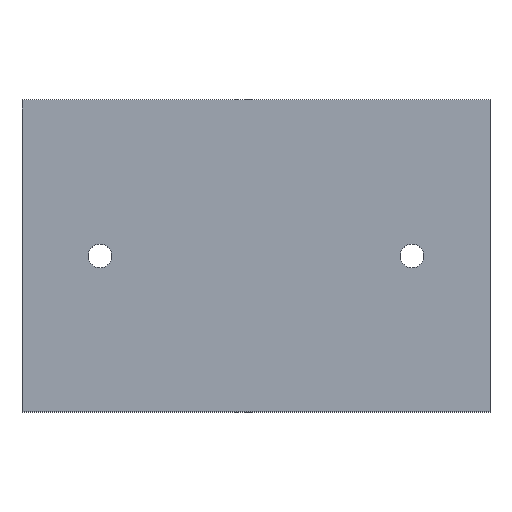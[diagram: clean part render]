
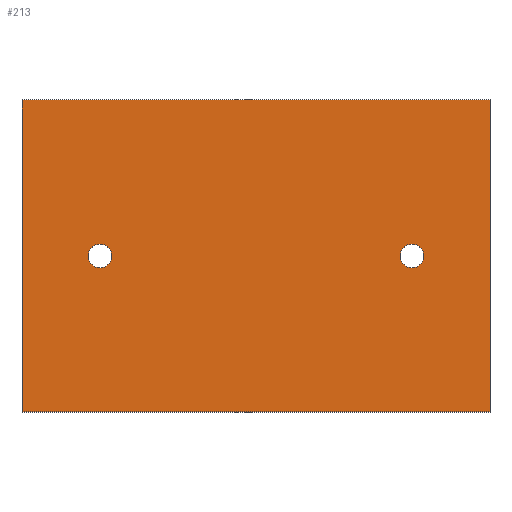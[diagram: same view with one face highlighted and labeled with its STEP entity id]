
A CAD part, top view. The second image highlights one B-rep face of the part: STEP entity #213.
In plain terms, the highlighted planar face has unit normal (0, 0, 1).
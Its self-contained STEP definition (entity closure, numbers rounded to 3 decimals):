
#24 = VERTEX_POINT('',#25);
#25 = CARTESIAN_POINT('',(-60.,-40.,24.));
#32 = PLANE('',#33);
#33 = AXIS2_PLACEMENT_3D('',#34,#35,#36);
#34 = CARTESIAN_POINT('',(-60.,-40.,16.));
#35 = DIRECTION('',(1.,0.,0.));
#36 = DIRECTION('',(0.,0.,1.));
#44 = PLANE('',#45);
#45 = AXIS2_PLACEMENT_3D('',#46,#47,#48);
#46 = CARTESIAN_POINT('',(-60.,-40.,16.));
#47 = DIRECTION('',(0.,1.,0.));
#48 = DIRECTION('',(0.,0.,1.));
#85 = VERTEX_POINT('',#86);
#86 = CARTESIAN_POINT('',(-60.,40.,24.));
#100 = PLANE('',#101);
#101 = AXIS2_PLACEMENT_3D('',#102,#103,#104);
#102 = CARTESIAN_POINT('',(-60.,40.,16.));
#103 = DIRECTION('',(0.,1.,0.));
#104 = DIRECTION('',(0.,0.,1.));
#112 = EDGE_CURVE('',#24,#85,#113,.T.);
#113 = SURFACE_CURVE('',#114,(#118,#125),.PCURVE_S1.);
#114 = LINE('',#115,#116);
#115 = CARTESIAN_POINT('',(-60.,-40.,24.));
#116 = VECTOR('',#117,1.);
#117 = DIRECTION('',(0.,1.,0.));
#118 = PCURVE('',#32,#119);
#119 = DEFINITIONAL_REPRESENTATION('',(#120),#124);
#120 = LINE('',#121,#122);
#121 = CARTESIAN_POINT('',(8.,0.));
#122 = VECTOR('',#123,1.);
#123 = DIRECTION('',(0.,-1.));
#124 = ( GEOMETRIC_REPRESENTATION_CONTEXT(2) 
PARAMETRIC_REPRESENTATION_CONTEXT() REPRESENTATION_CONTEXT('2D SPACE',''
  ) );
#125 = PCURVE('',#126,#131);
#126 = PLANE('',#127);
#127 = AXIS2_PLACEMENT_3D('',#128,#129,#130);
#128 = CARTESIAN_POINT('',(-60.,-40.,24.));
#129 = DIRECTION('',(0.,0.,1.));
#130 = DIRECTION('',(1.,0.,0.));
#131 = DEFINITIONAL_REPRESENTATION('',(#132),#136);
#132 = LINE('',#133,#134);
#133 = CARTESIAN_POINT('',(0.,0.));
#134 = VECTOR('',#135,1.);
#135 = DIRECTION('',(0.,1.));
#136 = ( GEOMETRIC_REPRESENTATION_CONTEXT(2) 
PARAMETRIC_REPRESENTATION_CONTEXT() REPRESENTATION_CONTEXT('2D SPACE',''
  ) );
#165 = EDGE_CURVE('',#24,#166,#168,.T.);
#166 = VERTEX_POINT('',#167);
#167 = CARTESIAN_POINT('',(60.,-40.,24.));
#168 = SURFACE_CURVE('',#169,(#173,#180),.PCURVE_S1.);
#169 = LINE('',#170,#171);
#170 = CARTESIAN_POINT('',(-60.,-40.,24.));
#171 = VECTOR('',#172,1.);
#172 = DIRECTION('',(1.,0.,0.));
#173 = PCURVE('',#44,#174);
#174 = DEFINITIONAL_REPRESENTATION('',(#175),#179);
#175 = LINE('',#176,#177);
#176 = CARTESIAN_POINT('',(8.,0.));
#177 = VECTOR('',#178,1.);
#178 = DIRECTION('',(0.,1.));
#179 = ( GEOMETRIC_REPRESENTATION_CONTEXT(2) 
PARAMETRIC_REPRESENTATION_CONTEXT() REPRESENTATION_CONTEXT('2D SPACE',''
  ) );
#180 = PCURVE('',#126,#181);
#181 = DEFINITIONAL_REPRESENTATION('',(#182),#186);
#182 = LINE('',#183,#184);
#183 = CARTESIAN_POINT('',(0.,0.));
#184 = VECTOR('',#185,1.);
#185 = DIRECTION('',(1.,0.));
#186 = ( GEOMETRIC_REPRESENTATION_CONTEXT(2) 
PARAMETRIC_REPRESENTATION_CONTEXT() REPRESENTATION_CONTEXT('2D SPACE',''
  ) );
#202 = PLANE('',#203);
#203 = AXIS2_PLACEMENT_3D('',#204,#205,#206);
#204 = CARTESIAN_POINT('',(60.,-40.,16.));
#205 = DIRECTION('',(1.,0.,0.));
#206 = DIRECTION('',(0.,0.,1.));
#213 = ADVANCED_FACE('',(#214,#262,#293),#126,.T.);
#214 = FACE_BOUND('',#215,.T.);
#215 = EDGE_LOOP('',(#216,#217,#218,#241));
#216 = ORIENTED_EDGE('',*,*,#112,.F.);
#217 = ORIENTED_EDGE('',*,*,#165,.T.);
#218 = ORIENTED_EDGE('',*,*,#219,.T.);
#219 = EDGE_CURVE('',#166,#220,#222,.T.);
#220 = VERTEX_POINT('',#221);
#221 = CARTESIAN_POINT('',(60.,40.,24.));
#222 = SURFACE_CURVE('',#223,(#227,#234),.PCURVE_S1.);
#223 = LINE('',#224,#225);
#224 = CARTESIAN_POINT('',(60.,-40.,24.));
#225 = VECTOR('',#226,1.);
#226 = DIRECTION('',(0.,1.,0.));
#227 = PCURVE('',#126,#228);
#228 = DEFINITIONAL_REPRESENTATION('',(#229),#233);
#229 = LINE('',#230,#231);
#230 = CARTESIAN_POINT('',(120.,0.));
#231 = VECTOR('',#232,1.);
#232 = DIRECTION('',(0.,1.));
#233 = ( GEOMETRIC_REPRESENTATION_CONTEXT(2) 
PARAMETRIC_REPRESENTATION_CONTEXT() REPRESENTATION_CONTEXT('2D SPACE',''
  ) );
#234 = PCURVE('',#202,#235);
#235 = DEFINITIONAL_REPRESENTATION('',(#236),#240);
#236 = LINE('',#237,#238);
#237 = CARTESIAN_POINT('',(8.,0.));
#238 = VECTOR('',#239,1.);
#239 = DIRECTION('',(0.,-1.));
#240 = ( GEOMETRIC_REPRESENTATION_CONTEXT(2) 
PARAMETRIC_REPRESENTATION_CONTEXT() REPRESENTATION_CONTEXT('2D SPACE',''
  ) );
#241 = ORIENTED_EDGE('',*,*,#242,.F.);
#242 = EDGE_CURVE('',#85,#220,#243,.T.);
#243 = SURFACE_CURVE('',#244,(#248,#255),.PCURVE_S1.);
#244 = LINE('',#245,#246);
#245 = CARTESIAN_POINT('',(-60.,40.,24.));
#246 = VECTOR('',#247,1.);
#247 = DIRECTION('',(1.,0.,0.));
#248 = PCURVE('',#126,#249);
#249 = DEFINITIONAL_REPRESENTATION('',(#250),#254);
#250 = LINE('',#251,#252);
#251 = CARTESIAN_POINT('',(0.,80.));
#252 = VECTOR('',#253,1.);
#253 = DIRECTION('',(1.,0.));
#254 = ( GEOMETRIC_REPRESENTATION_CONTEXT(2) 
PARAMETRIC_REPRESENTATION_CONTEXT() REPRESENTATION_CONTEXT('2D SPACE',''
  ) );
#255 = PCURVE('',#100,#256);
#256 = DEFINITIONAL_REPRESENTATION('',(#257),#261);
#257 = LINE('',#258,#259);
#258 = CARTESIAN_POINT('',(8.,0.));
#259 = VECTOR('',#260,1.);
#260 = DIRECTION('',(0.,1.));
#261 = ( GEOMETRIC_REPRESENTATION_CONTEXT(2) 
PARAMETRIC_REPRESENTATION_CONTEXT() REPRESENTATION_CONTEXT('2D SPACE',''
  ) );
#262 = FACE_BOUND('',#263,.T.);
#263 = EDGE_LOOP('',(#264));
#264 = ORIENTED_EDGE('',*,*,#265,.F.);
#265 = EDGE_CURVE('',#266,#266,#268,.T.);
#266 = VERTEX_POINT('',#267);
#267 = CARTESIAN_POINT('',(-36.985,0.,24.));
#268 = SURFACE_CURVE('',#269,(#274,#281),.PCURVE_S1.);
#269 = CIRCLE('',#270,3.015);
#270 = AXIS2_PLACEMENT_3D('',#271,#272,#273);
#271 = CARTESIAN_POINT('',(-40.,0.,24.));
#272 = DIRECTION('',(0.,0.,1.));
#273 = DIRECTION('',(1.,0.,0.));
#274 = PCURVE('',#126,#275);
#275 = DEFINITIONAL_REPRESENTATION('',(#276),#280);
#276 = CIRCLE('',#277,3.015);
#277 = AXIS2_PLACEMENT_2D('',#278,#279);
#278 = CARTESIAN_POINT('',(20.,40.));
#279 = DIRECTION('',(1.,0.));
#280 = ( GEOMETRIC_REPRESENTATION_CONTEXT(2) 
PARAMETRIC_REPRESENTATION_CONTEXT() REPRESENTATION_CONTEXT('2D SPACE',''
  ) );
#281 = PCURVE('',#282,#287);
#282 = CYLINDRICAL_SURFACE('',#283,3.015);
#283 = AXIS2_PLACEMENT_3D('',#284,#285,#286);
#284 = CARTESIAN_POINT('',(-40.,0.,16.));
#285 = DIRECTION('',(-0.,-0.,-1.));
#286 = DIRECTION('',(1.,0.,0.));
#287 = DEFINITIONAL_REPRESENTATION('',(#288),#292);
#288 = LINE('',#289,#290);
#289 = CARTESIAN_POINT('',(-0.,-8.));
#290 = VECTOR('',#291,1.);
#291 = DIRECTION('',(-1.,0.));
#292 = ( GEOMETRIC_REPRESENTATION_CONTEXT(2) 
PARAMETRIC_REPRESENTATION_CONTEXT() REPRESENTATION_CONTEXT('2D SPACE',''
  ) );
#293 = FACE_BOUND('',#294,.T.);
#294 = EDGE_LOOP('',(#295));
#295 = ORIENTED_EDGE('',*,*,#296,.F.);
#296 = EDGE_CURVE('',#297,#297,#299,.T.);
#297 = VERTEX_POINT('',#298);
#298 = CARTESIAN_POINT('',(43.015,0.,24.));
#299 = SURFACE_CURVE('',#300,(#305,#312),.PCURVE_S1.);
#300 = CIRCLE('',#301,3.015);
#301 = AXIS2_PLACEMENT_3D('',#302,#303,#304);
#302 = CARTESIAN_POINT('',(40.,0.,24.));
#303 = DIRECTION('',(0.,0.,1.));
#304 = DIRECTION('',(1.,0.,0.));
#305 = PCURVE('',#126,#306);
#306 = DEFINITIONAL_REPRESENTATION('',(#307),#311);
#307 = CIRCLE('',#308,3.015);
#308 = AXIS2_PLACEMENT_2D('',#309,#310);
#309 = CARTESIAN_POINT('',(100.,40.));
#310 = DIRECTION('',(1.,0.));
#311 = ( GEOMETRIC_REPRESENTATION_CONTEXT(2) 
PARAMETRIC_REPRESENTATION_CONTEXT() REPRESENTATION_CONTEXT('2D SPACE',''
  ) );
#312 = PCURVE('',#313,#318);
#313 = CYLINDRICAL_SURFACE('',#314,3.015);
#314 = AXIS2_PLACEMENT_3D('',#315,#316,#317);
#315 = CARTESIAN_POINT('',(40.,0.,16.));
#316 = DIRECTION('',(-0.,-0.,-1.));
#317 = DIRECTION('',(1.,0.,0.));
#318 = DEFINITIONAL_REPRESENTATION('',(#319),#323);
#319 = LINE('',#320,#321);
#320 = CARTESIAN_POINT('',(-0.,-8.));
#321 = VECTOR('',#322,1.);
#322 = DIRECTION('',(-1.,0.));
#323 = ( GEOMETRIC_REPRESENTATION_CONTEXT(2) 
PARAMETRIC_REPRESENTATION_CONTEXT() REPRESENTATION_CONTEXT('2D SPACE',''
  ) );
